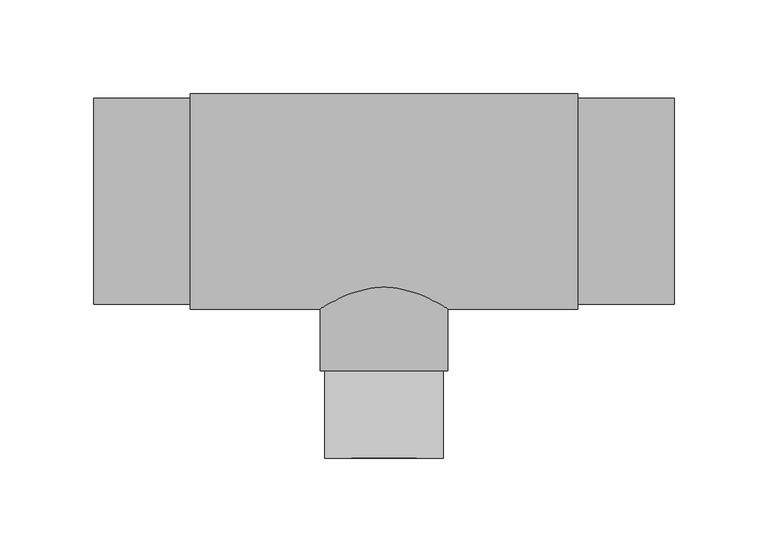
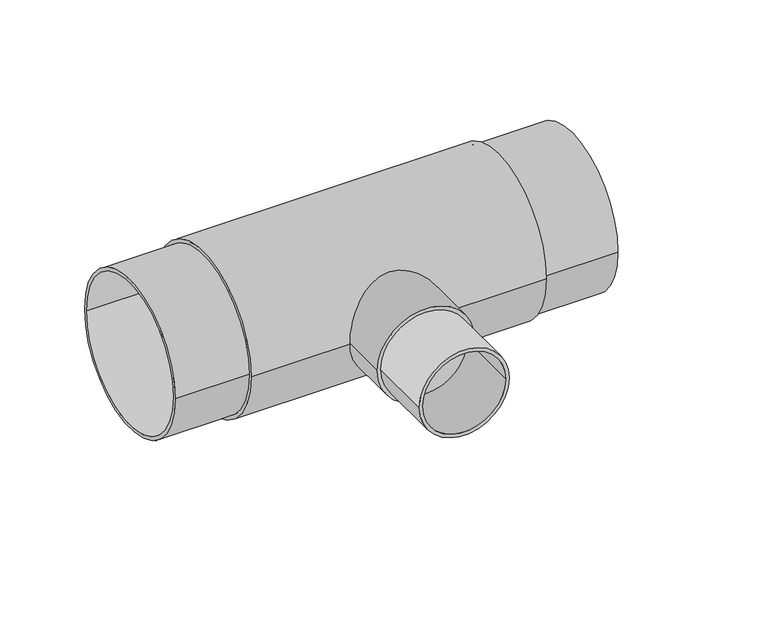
"""IFC4 building model written with IfcOpenShell, lengths in millimetres: pipe fitting geometry, EGB_VASEN_ PPR_Te a tope WXRB300_Te reducida a tope WXRB310 : Te a tope."""

from ifc_helpers import new_model, si_unit, point, frame, origin, origin_2d, place, context, project, spatial, circle_curve, trimmed, segment, composite_curve, outline, extrude, source, transform, mapped, element, save


def pipe_fitting_a03e0f43(model_context):
    return source(origin(), model_context, "Body", "SweptSolid", [
        extrude(outline(composite_curve([segment(trimmed(circle_curve(origin_2d(), 31.5), [point((0.0, 31.5))], [point((0.0, -31.5))], False, "CARTESIAN"), True, "CONTINUOUS"), segment(trimmed(circle_curve(origin_2d(), 31.5), [point((0.0, -31.5))], [point((0.0, 31.5))], False, "CARTESIAN"), True, "CONTINUOUS")], self_intersect=False), holes=[composite_curve([segment(trimmed(circle_curve(origin_2d(), 29.0), [point((0.0, 29.0))], [point((0.0, -29.0))], True, "CARTESIAN"), True, "CONTINUOUS"), segment(trimmed(circle_curve(origin_2d(), 29.0), [point((0.0, -29.0))], [point((0.0, 29.0))], True, "CARTESIAN"), True, "CONTINUOUS")], self_intersect=False)]), frame((0.0, -137.0, 0.0), z_axis=(0.0, 1.0, 0.0), x_axis=(0.0, 0.0, 1.0)), (0.0, 0.0, 1.0), 46.5),
        extrude(outline(composite_curve([segment(trimmed(circle_curve(origin_2d(), 34.0), [point((0.0, 34.0))], [point((0.0, -34.0))], False, "CARTESIAN"), True, "CONTINUOUS"), segment(trimmed(circle_curve(origin_2d(), 34.0), [point((0.0, -34.0))], [point((0.0, 34.0))], False, "CARTESIAN"), True, "CONTINUOUS")], self_intersect=False)), frame((0.0, -90.5, 0.0), z_axis=(0.0, 1.0, 0.0), x_axis=(0.0, 0.0, 1.0)), (0.0, 0.0, 1.0), 90.5),
        extrude(outline(composite_curve([segment(trimmed(circle_curve(origin_2d(), 57.5), [point((-57.5, 0.0))], [point((57.5, 0.0))], False, "CARTESIAN"), True, "CONTINUOUS"), segment(trimmed(circle_curve(origin_2d(), 57.5), [point((57.5, 0.0))], [point((-57.5, 0.0))], False, "CARTESIAN"), True, "CONTINUOUS")], self_intersect=False), holes=[composite_curve([segment(trimmed(circle_curve(origin_2d(), 55.0), [point((-55.0, 0.0))], [point((55.0, 0.0))], True, "CARTESIAN"), True, "CONTINUOUS"), segment(trimmed(circle_curve(origin_2d(), 55.0), [point((55.0, 0.0))], [point((-55.0, 0.0))], True, "CARTESIAN"), True, "CONTINUOUS")], self_intersect=False)]), frame((-103.3333333, 0.0, 0.0), z_axis=(1.0, 0.0, 0.0), x_axis=(0.0, 1.0, 0.0)), (0.0, 0.0, 1.0), 206.6666667),
        extrude(outline(composite_curve([segment(trimmed(circle_curve(origin_2d(), 55.0), [point((-55.0, 0.0))], [point((55.0, 0.0))], False, "CARTESIAN"), True, "CONTINUOUS"), segment(trimmed(circle_curve(origin_2d(), 55.0), [point((55.0, 0.0))], [point((-55.0, 0.0))], False, "CARTESIAN"), True, "CONTINUOUS")], self_intersect=False), holes=[composite_curve([segment(trimmed(circle_curve(origin_2d(), 52.5), [point((-52.5, 0.0))], [point((52.5, 0.0))], True, "CARTESIAN"), True, "CONTINUOUS"), segment(trimmed(circle_curve(origin_2d(), 52.5), [point((52.5, 0.0))], [point((-52.5, 0.0))], True, "CARTESIAN"), True, "CONTINUOUS")], self_intersect=False)]), frame((-155.0, 0.0, 0.0), z_axis=(1.0, 0.0, 0.0), x_axis=(0.0, 1.0, 0.0)), (0.0, 0.0, 1.0), 310.0),
    ])


if __name__ == "__main__":
    model = new_model("IFC4")
    model_context = context("Model", 3, world=origin())
    ifc_project = project(units=[si_unit("LENGTHUNIT", "METRE", prefix="MILLI")], contexts=[model_context])
    site = spatial("IfcSite", under=ifc_project)
    building = spatial("IfcBuilding", under=site)
    placement = place(None, origin())
    pipe_fitting_shape = pipe_fitting_a03e0f43(model_context)
    element("IfcPipeFitting", 1, ObjectType="EGB_VASEN_ PPR_Te a tope WXRB300_Te reducida a tope WXRB310 : Te a tope", at=placement, inside=building, context=model_context, shape_type="MappedRepresentation", body=[
        mapped(pipe_fitting_shape, transform((0.0, 0.0, 0.0), x_axis=(1.0, 0.0, 0.0), y_axis=(0.0, 1.0, 0.0), z_axis=(0.0, 0.0, 1.0))),
    ])
    save(model, "model.ifc")
